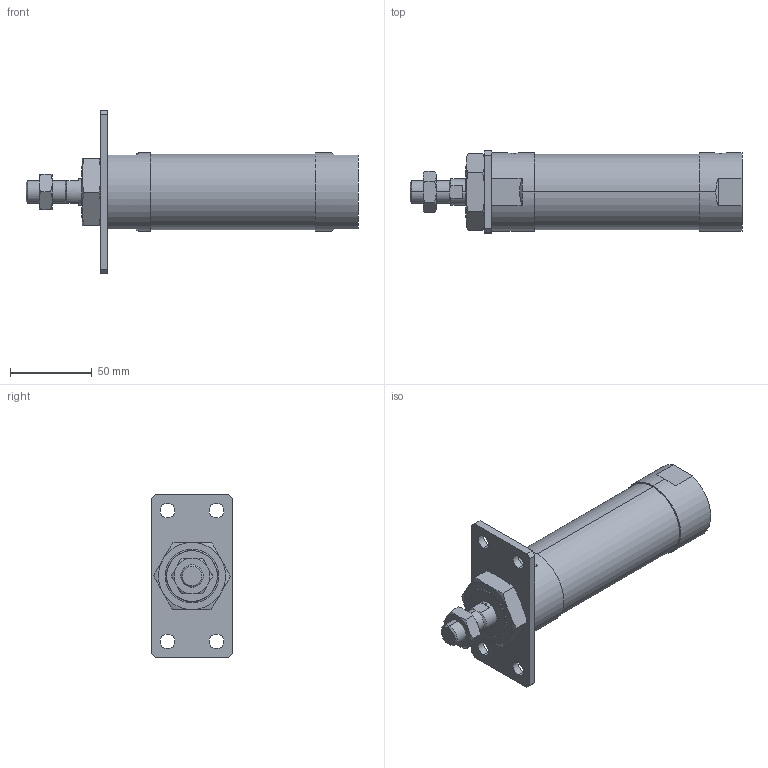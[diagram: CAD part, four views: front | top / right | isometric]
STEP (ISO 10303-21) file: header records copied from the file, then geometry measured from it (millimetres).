
FILE_DESCRIPTION (( 'STEP AP203' ), '1' );
FILE_NAME ('JGND2-40-50-A.STEP', '2016-08-04T03:04:35', ( '' ), ( '' ), 'SwSTEP 2.0', 'SolidWorks 2014', '' );
FILE_SCHEMA (( 'CONFIG_CONTROL_DESIGN' ));
Length unit declared in the file: millimetre
Products named in the file (5): J#2-40-50(P); J#2-40-A; JGND2-40-50-A
Assembly tree (4 placements, depth 2):
  JGND2-40-50-A
    J#2-40-50(P)
    (unnamed)
    (unnamed)
    J#2-40-A
Bounding box: 203 x 50 x 100 mm (x, y, z)
Volume: 304730.1 mm3; surface area: 46119.7 mm2
Topology: 4 solids, 4 shells, 109 faces, 254 edges, 155 vertices
Faces by surface type: plane 42, cylinder 30, torus 24, cone 13
Entity records: 4068 total; most frequent: CARTESIAN_POINT 1112, DIRECTION 511, ORIENTED_EDGE 500, EDGE_CURVE 250, AXIS2_PLACEMENT_3D 208, VERTEX_POINT 155, EDGE_LOOP 129, ADVANCED_FACE 109
